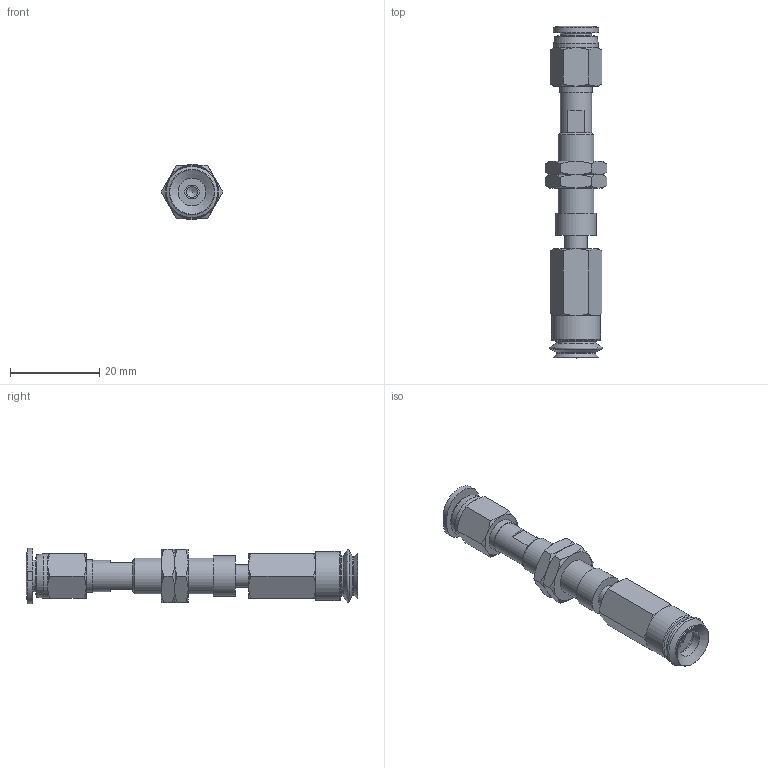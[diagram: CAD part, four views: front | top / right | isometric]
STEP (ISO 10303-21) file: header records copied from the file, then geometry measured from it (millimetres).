
FILE_DESCRIPTION(('STEP AP203'),'1');
FILE_NAME('-O.stp','2025-08-27T07:25:32',(' '),(' '),'Spatial InterOp 3D',' ',' ');
FILE_SCHEMA(('CONFIG_CONTROL_DESIGN'));
Length unit declared in the file: millimetre
Products named in the file (8): BNABPJTS-10-3-※-O; ADAPTER; NAPCTS-10-3-MBODY; Adapter-10-NAPJ; NUT-NAPJ-10-3-s; NAPJTS-10-3-FBODY; BPJG-10-※; PC-C_06-M5
Assembly tree (8 placements, depth 2):
  BNABPJTS-10-3-※-O
    ADAPTER
    NAPCTS-10-3-MBODY
    Adapter-10-NAPJ
    NUT-NAPJ-10-3-s  x2
    NAPJTS-10-3-FBODY
    BPJG-10-※
    PC-C_06-M5
Bounding box: 13.86 x 74.48 x 12.4 mm (x, y, z)
Volume: 3898.2 mm3; surface area: 5434.4 mm2
Topology: 7 solids, 10 shells, 173 faces, 356 edges, 214 vertices
Faces by surface type: cone 67, plane 65, cylinder 25, torus 9, bspline 4, revolution 3
Full cylindrical faces by diameter (mm): 2.5 x1, 4 x2, 4.134 x2, 4.6 x1, 5 x4, 6.266 x1, 7 x2, 7.188 x2, 7.4 x1, 7.8 x1, 8 x2, 8.2 x1, 9 x1, 10 x1, 11 x1
Entity records: 4620 total; most frequent: CARTESIAN_POINT 1423, DIRECTION 587, ORIENTED_EDGE 490, AXIS2_PLACEMENT_3D 264, EDGE_CURVE 247, EDGE_LOOP 222, VERTEX_POINT 176, FACE_OUTER_BOUND 121
